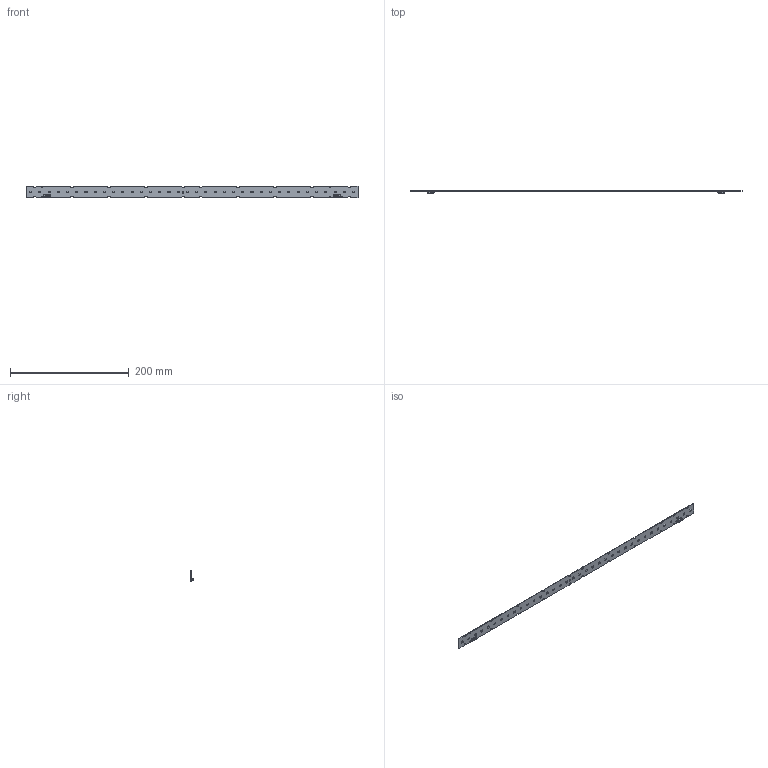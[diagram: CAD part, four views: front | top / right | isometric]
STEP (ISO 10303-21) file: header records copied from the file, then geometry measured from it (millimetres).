
FILE_DESCRIPTION(/* description */ ('Unknown'),/* implementation_level */ '2;1');
FILE_NAME(/* name */ 'LinLED 560x20mm 1100lm(36x2835) 2C sh-000 2018-06-15',/* time_stamp */ '2018-06-15T15:48:19+02:00',/* author */ ('Unknown'),/* organization */ ('Unknown'),/* preprocessor_version */ 'ST-DEVELOPER v16.7',/* originating_system */ 'DEX',/* authorisation */ $);
FILE_SCHEMA (('AUTOMOTIVE_DESIGN {1 0 10303 214 3 1 1}'));
Length unit declared in the file: millimetre
Products named in the file (4): LinLED 560x20mm 1100lm(36x2835) 2C sh-000 2018-06-15; PCB LinLED 560x20mm 1100lm(36x2835) 2C; LED 2835; 4010-411-12510 Sh-000 2016-11-03
Assembly tree (39 placements, depth 2):
  LinLED 560x20mm 1100lm(36x2835) 2C sh-000 2018-06-15
    PCB LinLED 560x20mm 1100lm(36x2835) 2C
    LED 2835  x36
    4010-411-12510 Sh-000 2016-11-03  x2
Bounding box: 560 x 4.5 x 20 mm (x, y, z)
Volume: 11530.8 mm3; surface area: 24776.2 mm2
Topology: 39 solids, 39 shells, 1281 faces, 3241 edges, 2092 vertices
Faces by surface type: plane 952, cylinder 147, bspline 126, cone 30, sphere 16, torus 10
Full cylindrical faces by diameter (mm): 1.5 x1
Entity records: 17390 total; most frequent: CARTESIAN_POINT 5545, ORIENTED_EDGE 2306, DIRECTION 1773, EDGE_CURVE 1153, VERTEX_POINT 740, LINE 631, VECTOR 631, AXIS2_PLACEMENT_3D 571
